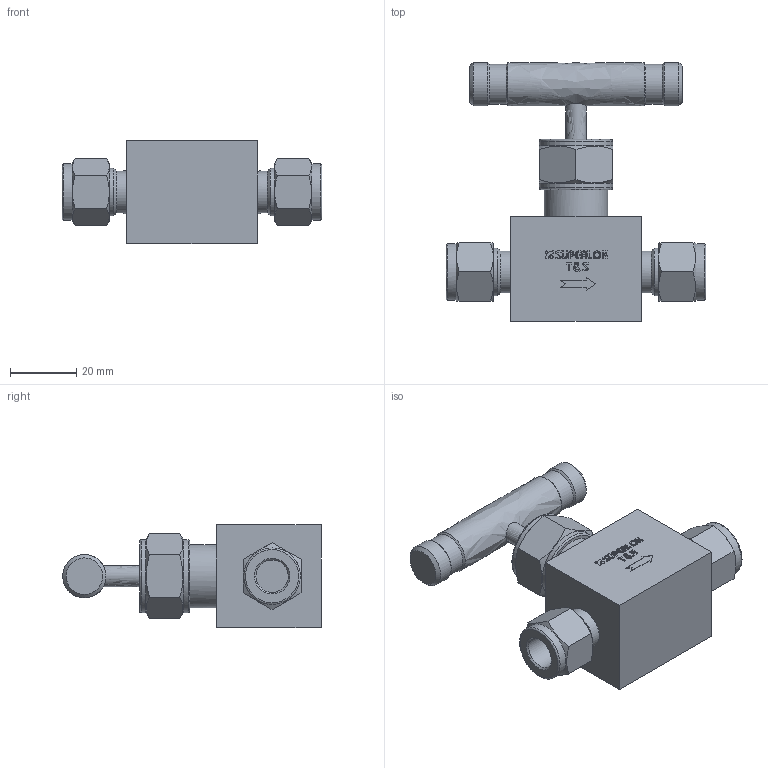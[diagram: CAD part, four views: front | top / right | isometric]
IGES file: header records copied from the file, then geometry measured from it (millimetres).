
Global section: file name: SBNV2-S6; native system: Autodesk Inventor 2016; preprocessor: unknown; author: HP; date: 20161008.112706; units: millimetre
Bounding box: 78.23 x 77.8 x 31.1 mm (x, y, z)
Volume: 61785.4 mm3; surface area: 15262 mm2
Topology: 1 solids, 1 shells, 224 faces, 605 edges, 421 vertices
Faces by surface type: bspline 224
